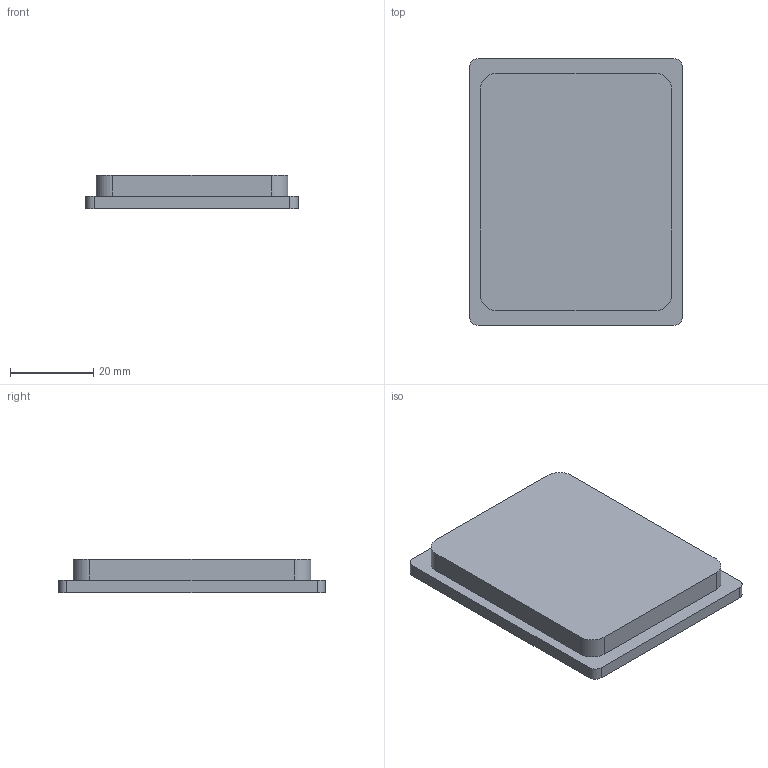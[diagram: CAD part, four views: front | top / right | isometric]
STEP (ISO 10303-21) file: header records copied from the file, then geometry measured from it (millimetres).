
FILE_DESCRIPTION(('FreeCAD Model'),'2;1');
FILE_NAME('Open CASCADE Shape Model','2026-04-05T22:21:52',('Author'),( ''),'Open CASCADE STEP processor 7.8','FreeCAD','Unknown');
FILE_SCHEMA(('AUTOMOTIVE_DESIGN { 1 0 10303 214 1 1 1 1 }'));
Length unit declared in the file: millimetre
Products named in the file (1): Corps
Bounding box: 51 x 64 x 8 mm (x, y, z)
Volume: 22823 mm3; surface area: 8196.5 mm2
Topology: 1 solids, 1 shells, 19 faces, 48 edges, 32 vertices
Faces by surface type: plane 11, cylinder 8
Entity records: 600 total; most frequent: DIRECTION 104, CARTESIAN_POINT 100, ORIENTED_EDGE 96, EDGE_CURVE 48, AXIS2_PLACEMENT_3D 36, VERTEX_POINT 32, LINE 32, VECTOR 32
